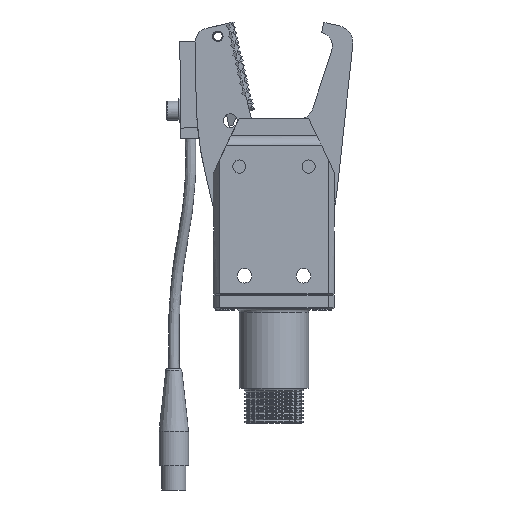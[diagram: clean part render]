
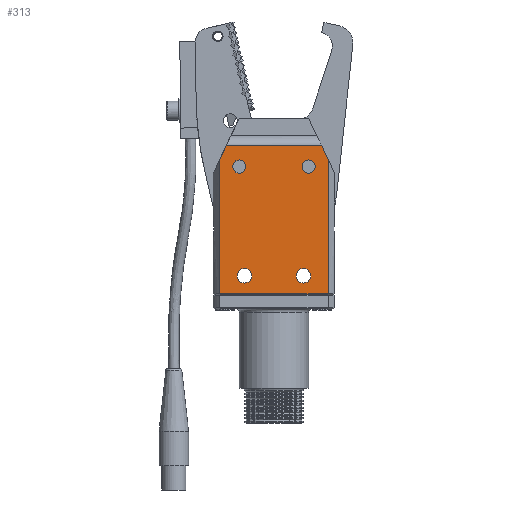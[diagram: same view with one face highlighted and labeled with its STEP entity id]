
A CAD part, left-side view. The second image highlights one B-rep face of the part: STEP entity #313.
In plain terms, the highlighted planar face has unit normal (-1, 0, 0).
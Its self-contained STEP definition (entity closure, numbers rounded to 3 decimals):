
#25 = EDGE_CURVE ( 'NONE', #10769, #10769, #9789, .T. ) ;
#139 = CARTESIAN_POINT ( 'NONE',  ( -12.5, 10., -50.75 ) ) ;
#313 = ADVANCED_FACE ( 'NONE', ( #12960, #14597, #1218, #912, #18248 ), #7036, .F. ) ;
#655 = AXIS2_PLACEMENT_3D ( 'NONE', #7441, #10199, #7227 ) ;
#701 = CARTESIAN_POINT ( 'NONE',  ( -12.5, -15.612, -11.973 ) ) ;
#912 = FACE_BOUND ( 'NONE', #996, .T. ) ;
#996 = EDGE_LOOP ( 'NONE', ( #6092 ) ) ;
#1100 = VECTOR ( 'NONE', #20086, 1000. ) ;
#1187 = AXIS2_PLACEMENT_3D ( 'NONE', #9412, #15633, #1650 ) ;
#1218 = FACE_BOUND ( 'NONE', #19074, .T. ) ;
#1314 = AXIS2_PLACEMENT_3D ( 'NONE', #19625, #5900, #12140 ) ;
#1650 = DIRECTION ( 'NONE',  ( 0., 0., -1. ) ) ;
#1657 = DIRECTION ( 'NONE',  ( 0., -1., 0. ) ) ;
#2326 = DIRECTION ( 'NONE',  ( 0., 0., 1. ) ) ;
#2808 = CARTESIAN_POINT ( 'NONE',  ( -12.5, -8.5, -47.6 ) ) ;
#3374 = VERTEX_POINT ( 'NONE', #17070 ) ;
#3601 = LINE ( 'NONE', #3721, #9900 ) ;
#3721 = CARTESIAN_POINT ( 'NONE',  ( -12.5, -15.612, 0. ) ) ;
#3766 = CARTESIAN_POINT ( 'NONE',  ( -12.5, 10., -14. ) ) ;
#3949 = VERTEX_POINT ( 'NONE', #13274 ) ;
#3962 = CARTESIAN_POINT ( 'NONE',  ( -12.5, -10., -14. ) ) ;
#4195 = EDGE_LOOP ( 'NONE', ( #16596, #14545, #8110, #7543, #12548, #11277 ) ) ;
#4259 = CARTESIAN_POINT ( 'NONE',  ( -12.5, -10., 0. ) ) ;
#4626 = LINE ( 'NONE', #139, #19637 ) ;
#4742 = CARTESIAN_POINT ( 'NONE',  ( -12.5, -10., -12.1 ) ) ;
#5082 = CARTESIAN_POINT ( 'NONE',  ( -12.5, -13.75, -8. ) ) ;
#5365 = AXIS2_PLACEMENT_3D ( 'NONE', #3962, #10204, #16416 ) ;
#5720 = VECTOR ( 'NONE', #19758, 1000. ) ;
#5845 = LINE ( 'NONE', #8721, #5720 ) ;
#5900 = DIRECTION ( 'NONE',  ( 1., 0., 0. ) ) ;
#6087 = CARTESIAN_POINT ( 'NONE',  ( -12.5, 17.5, -8. ) ) ;
#6092 = ORIENTED_EDGE ( 'NONE', *, *, #25, .T. ) ;
#6326 = AXIS2_PLACEMENT_3D ( 'NONE', #3766, #16298, #2326 ) ;
#6382 = CARTESIAN_POINT ( 'NONE',  ( -12.5, 8.5, -47.6 ) ) ;
#6730 = EDGE_LOOP ( 'NONE', ( #8874 ) ) ;
#7036 = PLANE ( 'NONE',  #655 ) ;
#7191 = EDGE_CURVE ( 'NONE', #13168, #3949, #13871, .T. ) ;
#7227 = DIRECTION ( 'NONE',  ( 0., 0., -1. ) ) ;
#7428 = DIRECTION ( 'NONE',  ( 0., -0.424, -0.905 ) ) ;
#7441 = CARTESIAN_POINT ( 'NONE',  ( -12.5, 10., 0. ) ) ;
#7543 = ORIENTED_EDGE ( 'NONE', *, *, #10161, .F. ) ;
#7604 = CARTESIAN_POINT ( 'NONE',  ( -12.5, -15.612, -50.75 ) ) ;
#8110 = ORIENTED_EDGE ( 'NONE', *, *, #18892, .F. ) ;
#8365 = EDGE_CURVE ( 'NONE', #18310, #18310, #14515, .T. ) ;
#8721 = CARTESIAN_POINT ( 'NONE',  ( -12.5, 15.612, 0. ) ) ;
#8739 = DIRECTION ( 'NONE',  ( 0., -0.424, 0.905 ) ) ;
#8874 = ORIENTED_EDGE ( 'NONE', *, *, #8365, .F. ) ;
#8903 = VECTOR ( 'NONE', #8739, 1000. ) ;
#9316 = EDGE_CURVE ( 'NONE', #10569, #10569, #18785, .T. ) ;
#9380 = VERTEX_POINT ( 'NONE', #701 ) ;
#9412 = CARTESIAN_POINT ( 'NONE',  ( -12.5, -8.5, -45.5 ) ) ;
#9789 = CIRCLE ( 'NONE', #1314, 2.1 ) ;
#9900 = VECTOR ( 'NONE', #9957, 1000. ) ;
#9957 = DIRECTION ( 'NONE',  ( 0., 0., -1. ) ) ;
#10161 = EDGE_CURVE ( 'NONE', #15557, #3374, #5845, .T. ) ;
#10175 = LINE ( 'NONE', #16694, #8903 ) ;
#10199 = DIRECTION ( 'NONE',  ( 1., 0., 0. ) ) ;
#10200 = EDGE_CURVE ( 'NONE', #15557, #16198, #4626, .T. ) ;
#10204 = DIRECTION ( 'NONE',  ( -1., 0., 0. ) ) ;
#10569 = VERTEX_POINT ( 'NONE', #2808 ) ;
#10769 = VERTEX_POINT ( 'NONE', #6382 ) ;
#10838 = CARTESIAN_POINT ( 'NONE',  ( -12.5, 15.612, -50.75 ) ) ;
#11277 = ORIENTED_EDGE ( 'NONE', *, *, #19233, .F. ) ;
#12075 = EDGE_LOOP ( 'NONE', ( #14889 ) ) ;
#12140 = DIRECTION ( 'NONE',  ( 0., 0., -1. ) ) ;
#12195 = CIRCLE ( 'NONE', #6326, 1.9 ) ;
#12548 = ORIENTED_EDGE ( 'NONE', *, *, #10200, .T. ) ;
#12960 = FACE_BOUND ( 'NONE', #6730, .T. ) ;
#13051 = ORIENTED_EDGE ( 'NONE', *, *, #9316, .T. ) ;
#13168 = VERTEX_POINT ( 'NONE', #5082 ) ;
#13274 = CARTESIAN_POINT ( 'NONE',  ( -12.5, 13.75, -8. ) ) ;
#13305 = EDGE_CURVE ( 'NONE', #13168, #9380, #16819, .T. ) ;
#13390 = VERTEX_POINT ( 'NONE', #16342 ) ;
#13871 = LINE ( 'NONE', #6087, #1100 ) ;
#14515 = CIRCLE ( 'NONE', #5365, 1.9 ) ;
#14545 = ORIENTED_EDGE ( 'NONE', *, *, #7191, .T. ) ;
#14563 = EDGE_CURVE ( 'NONE', #13390, #13390, #12195, .T. ) ;
#14597 = FACE_BOUND ( 'NONE', #12075, .T. ) ;
#14889 = ORIENTED_EDGE ( 'NONE', *, *, #14563, .F. ) ;
#15049 = VECTOR ( 'NONE', #7428, 1000. ) ;
#15557 = VERTEX_POINT ( 'NONE', #10838 ) ;
#15633 = DIRECTION ( 'NONE',  ( 1., 0., 0. ) ) ;
#16198 = VERTEX_POINT ( 'NONE', #7604 ) ;
#16298 = DIRECTION ( 'NONE',  ( -1., 0., 0. ) ) ;
#16342 = CARTESIAN_POINT ( 'NONE',  ( -12.5, 10., -12.1 ) ) ;
#16416 = DIRECTION ( 'NONE',  ( 0., 0., 1. ) ) ;
#16596 = ORIENTED_EDGE ( 'NONE', *, *, #13305, .F. ) ;
#16694 = CARTESIAN_POINT ( 'NONE',  ( -12.5, 17.5, -16. ) ) ;
#16819 = LINE ( 'NONE', #4259, #15049 ) ;
#17070 = CARTESIAN_POINT ( 'NONE',  ( -12.5, 15.612, -11.973 ) ) ;
#18248 = FACE_OUTER_BOUND ( 'NONE', #4195, .T. ) ;
#18310 = VERTEX_POINT ( 'NONE', #4742 ) ;
#18785 = CIRCLE ( 'NONE', #1187, 2.1 ) ;
#18892 = EDGE_CURVE ( 'NONE', #3374, #3949, #10175, .T. ) ;
#19074 = EDGE_LOOP ( 'NONE', ( #13051 ) ) ;
#19233 = EDGE_CURVE ( 'NONE', #9380, #16198, #3601, .T. ) ;
#19625 = CARTESIAN_POINT ( 'NONE',  ( -12.5, 8.5, -45.5 ) ) ;
#19637 = VECTOR ( 'NONE', #1657, 1000. ) ;
#19758 = DIRECTION ( 'NONE',  ( 0., 0., 1. ) ) ;
#20086 = DIRECTION ( 'NONE',  ( 0., 1., 0. ) ) ;
